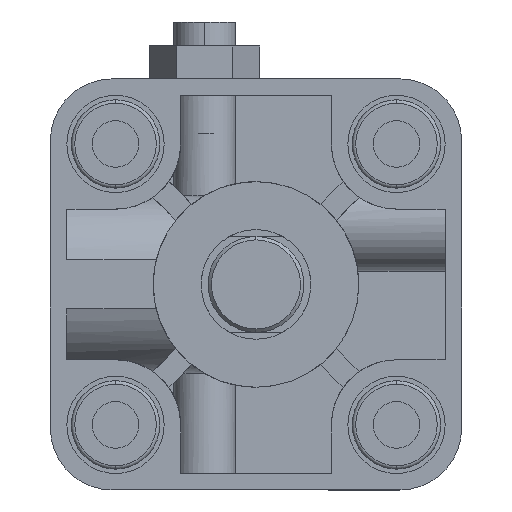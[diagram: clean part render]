
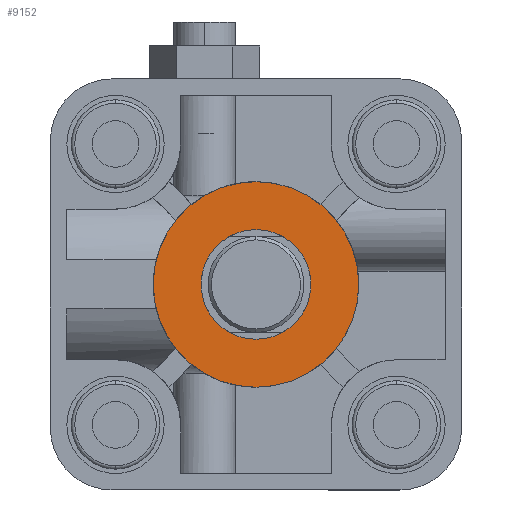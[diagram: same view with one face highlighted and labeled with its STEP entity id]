
A CAD part, left-side view. The second image highlights one B-rep face of the part: STEP entity #9152.
In plain terms, the highlighted planar face has unit normal (-1, 0, 0) as drawn and (1, 0, 0) by its records, which use the part's own axes.
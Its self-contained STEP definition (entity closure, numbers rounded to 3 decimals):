
#72 = EDGE_CURVE ( 'NONE', #9306, #9579, #5568, .T. ) ;
#789 = ORIENTED_EDGE ( 'NONE', *, *, #2721, .F. ) ;
#815 = CARTESIAN_POINT ( 'NONE',  ( 24.5, 0., 0. ) ) ;
#1306 = DIRECTION ( 'NONE',  ( 0., 0., 1. ) ) ;
#1422 = DIRECTION ( 'NONE',  ( 0., 0., 1. ) ) ;
#1449 = DIRECTION ( 'NONE',  ( -1., 0., 0. ) ) ;
#1620 = DIRECTION ( 'NONE',  ( 0., 0., 1. ) ) ;
#2093 = DIRECTION ( 'NONE',  ( -1., 0., 0. ) ) ;
#2184 = ORIENTED_EDGE ( 'NONE', *, *, #5664, .F. ) ;
#2238 = ORIENTED_EDGE ( 'NONE', *, *, #72, .T. ) ;
#2574 = DIRECTION ( 'NONE',  ( -1., 0., 0. ) ) ;
#2721 = EDGE_CURVE ( 'NONE', #8068, #8802, #7158, .T. ) ;
#2838 = DIRECTION ( 'NONE',  ( -1., 0., 0. ) ) ;
#3103 = ORIENTED_EDGE ( 'NONE', *, *, #6989, .T. ) ;
#3749 = CARTESIAN_POINT ( 'NONE',  ( 24.5, 0., 0. ) ) ;
#3762 = AXIS2_PLACEMENT_3D ( 'NONE', #3749, #1449, #1306 ) ;
#4374 = CARTESIAN_POINT ( 'NONE',  ( 24.5, 8., 0. ) ) ;
#4884 = AXIS2_PLACEMENT_3D ( 'NONE', #8615, #2574, #6785 ) ;
#5454 = AXIS2_PLACEMENT_3D ( 'NONE', #815, #5962, #6275 ) ;
#5568 = CIRCLE ( 'NONE', #3762, 8. ) ;
#5585 = CARTESIAN_POINT ( 'NONE',  ( 24.5, 0., -15. ) ) ;
#5664 = EDGE_CURVE ( 'NONE', #8802, #8068, #6215, .T. ) ;
#5962 = DIRECTION ( 'NONE',  ( -1., 0., 0. ) ) ;
#6103 = AXIS2_PLACEMENT_3D ( 'NONE', #4374, #2093, #1620 ) ;
#6215 = CIRCLE ( 'NONE', #4884, 15. ) ;
#6275 = DIRECTION ( 'NONE',  ( 0., 0., 1. ) ) ;
#6308 = PLANE ( 'NONE',  #6103 ) ;
#6683 = EDGE_LOOP ( 'NONE', ( #2184, #789 ) ) ;
#6763 = FACE_BOUND ( 'NONE', #7763, .T. ) ;
#6785 = DIRECTION ( 'NONE',  ( 0., 0., 1. ) ) ;
#6989 = EDGE_CURVE ( 'NONE', #9579, #9306, #8263, .T. ) ;
#7158 = CIRCLE ( 'NONE', #5454, 15. ) ;
#7763 = EDGE_LOOP ( 'NONE', ( #2238, #3103 ) ) ;
#7850 = CARTESIAN_POINT ( 'NONE',  ( 24.5, 0., 8. ) ) ;
#8068 = VERTEX_POINT ( 'NONE', #5585 ) ;
#8263 = CIRCLE ( 'NONE', #8975, 8. ) ;
#8445 = CARTESIAN_POINT ( 'NONE',  ( 24.5, 0., -8. ) ) ;
#8615 = CARTESIAN_POINT ( 'NONE',  ( 24.5, 0., 0. ) ) ;
#8802 = VERTEX_POINT ( 'NONE', #8886 ) ;
#8866 = CARTESIAN_POINT ( 'NONE',  ( 24.5, 0., 0. ) ) ;
#8886 = CARTESIAN_POINT ( 'NONE',  ( 24.5, 0., 15. ) ) ;
#8904 = FACE_OUTER_BOUND ( 'NONE', #6683, .T. ) ;
#8975 = AXIS2_PLACEMENT_3D ( 'NONE', #8866, #2838, #1422 ) ;
#9152 = ADVANCED_FACE ( 'NONE', ( #8904, #6763 ), #6308, .F. ) ;
#9306 = VERTEX_POINT ( 'NONE', #7850 ) ;
#9579 = VERTEX_POINT ( 'NONE', #8445 ) ;
